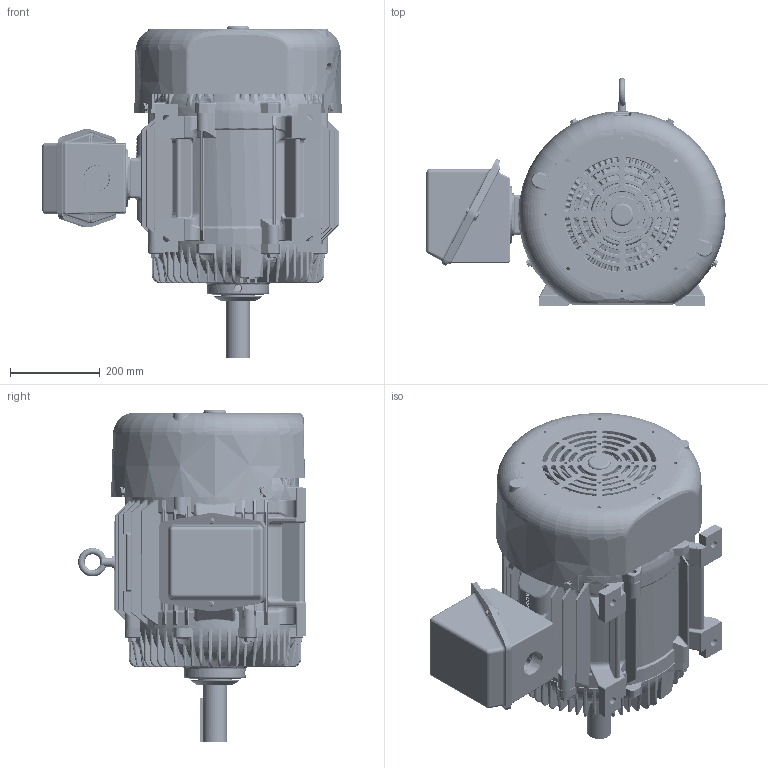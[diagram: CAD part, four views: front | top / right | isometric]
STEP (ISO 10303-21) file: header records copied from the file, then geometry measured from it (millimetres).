
FILE_DESCRIPTION (( 'STEP AP203' ), '1' );
FILE_NAME ('SS28703-1150_F2_RevA.STEP', '2020-11-30T07:05:37', ( '' ), ( '' ), 'SwSTEP 2.0', 'SolidWorks 2018', '' );
FILE_SCHEMA (( 'CONFIG_CONTROL_DESIGN' ));
Length unit declared in the file: inch
Products named in the file (1): SS28703-1150_F2_RevA
Bounding box: 666.31 x 506.84 x 739.06 mm (x, y, z)
Volume: 17587700 mm3; surface area: 4069093.8 mm2
Topology: 33 solids, 33 shells, 7908 faces, 19690 edges, 11726 vertices
Faces by surface type: bspline 2614, cylinder 1722, plane 1322, torus 1203, cone 728, sphere 319
Entity records: 389993 total; most frequent: CARTESIAN_POINT 223558, ORIENTED_EDGE 38878, DIRECTION 30219, EDGE_CURVE 19439, AXIS2_PLACEMENT_3D 13073, VERTEX_POINT 11704, EDGE_LOOP 8245, ADVANCED_FACE 7908
